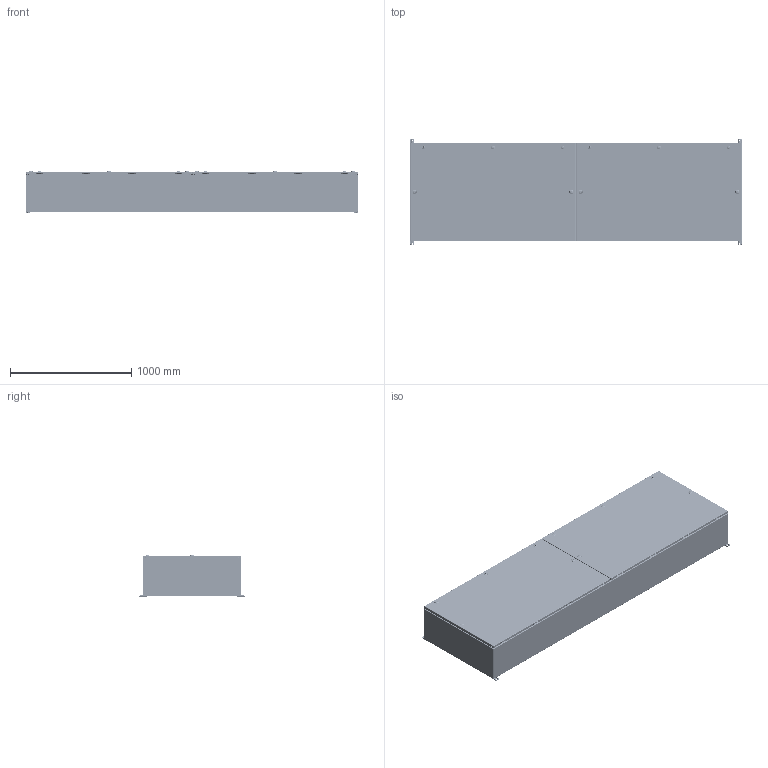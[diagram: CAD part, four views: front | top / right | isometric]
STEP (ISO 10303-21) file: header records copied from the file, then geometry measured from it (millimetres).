
FILE_DESCRIPTION(/* description */ ('1412BTSSCU 1600A - 4 Wires x 108" Assembly'),/* implementation_level */ '2;1');
FILE_NAME(/* name */ 'C:\Vault_Workspace\Inventor_Dwg\BoxCad\Result\1412BTSSCU091604DT\e-mail\3D\1412BTSSCU091604DT.stp',/* time_stamp */ '2022-10-28T12:57:22-04:00',/* author */ ('BoxCad'),/* organization */ (''),/* preprocessor_version */ 'ST-DEVELOPER v18.1',/* originating_system */ 'Autodesk Inventor 2020',/* authorisation */ '');
FILE_SCHEMA (('AUTOMOTIVE_DESIGN { 1 0 10303 214 3 1 1 }'));
Products named in the file (67): 1412BTSSCU091604DT; 1412BTSSCU091604DTB; 1412BTSSCU091604DTB-P; 1412BTSSCU091604DTE-P; STK-Q-16020; iLogic_STK-G-00701; STK-Q-00260; STK-Q-07220-1; STK-Q-07220-A; STK-Q-07220-B; 1412BTSSCU091604DTC; 1412BTSSCU091604DTC-P; 1412BTSSCU091604DTF-P; 1412BTSSCU091604DTG; STK-Q-16095; STK-K-09850-1; STK-Q-33019; STK-Q-90111; STK-Q-40096; STK-Q-63412; STK-S-00100; STK-A-880SCQ4-SLSS6-1; STK-A-880SCQ4-SLSS6-2; STK-A-880SCQ4-SLSS6-3; STK-A-880SCQ4-SLSS6-4; STK-A-880SCQ4-SLSS6-5; STK-A-880SCQ4-SLSS6-6; STK-A-880SCQ4-SLSS6-7; STK-A-880SCQ4-SLSS6-8; STK-A-880SCQ4-SLSS6-9; STK-A-880SCQ4-SLSS6-10; STK-Q-70621; STK-Q-70631; STK-Q-78145; STK-Q-03200; STK-Q-78125; STK-Q-90390; STK-Q-78160; STK-Q-78141; 1412BTSSCU091604DTIP1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
Assembly tree (242 placements, depth 4):
  1412BTSSCU091604DT
    1412BTSSCU091604DTB
      1412BTSSCU091604DTB-P
      1412BTSSCU091604DTE-P
      STK-Q-16095  x2
      STK-Q-16020  x10
      iLogic_STK-G-00701
      STK-Q-00260  x10
      STK-Q-07220-1  x10
        STK-Q-07220-A
        STK-Q-07220-B
      STK-S-00100
    1412BTSSCU091604DTC
      1412BTSSCU091604DTC-P
      1412BTSSCU091604DTF-P
      1412BTSSCU091604DTG  x2
      STK-Q-16095  x2
      STK-K-09850-1  x8
        STK-Q-33019
        STK-Q-90111
        STK-Q-40096
        STK-Q-63412
      STK-S-00100
      STK-A-880SCQ4-SLSS6-1
        STK-Q-70621
        STK-Q-70631
        STK-Q-78145
        STK-Q-03200
        STK-Q-78125
        STK-Q-90390
        STK-Q-78160
        STK-Q-78141
      STK-A-880SCQ4-SLSS6-2
        STK-Q-70621
        STK-Q-70631
        STK-Q-78145
        STK-Q-03200
        STK-Q-78125
        STK-Q-90390
        STK-Q-78160
        STK-Q-78141
      STK-A-880SCQ4-SLSS6-3
        STK-Q-70621
        STK-Q-70631
        STK-Q-78145
        STK-Q-03200
        STK-Q-78125
        STK-Q-90390
        STK-Q-78160
        STK-Q-78141
      STK-A-880SCQ4-SLSS6-4
        STK-Q-70621
        STK-Q-70631
        STK-Q-78145
        STK-Q-03200
        STK-Q-78125
        STK-Q-90390
        STK-Q-78160
        STK-Q-78141
      STK-A-880SCQ4-SLSS6-5
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Bounding box: 2743.2 x 869.95 x 345 mm (x, y, z)
Volume: 27099351.3 mm3; surface area: 19808196.1 mm2
Topology: 362 solids, 362 shells, 51120 faces, 133812 edges, 83520 vertices
Faces by surface type: plane 19488, bspline 14262, cylinder 12100, torus 3566, sphere 1082, cone 622
Full cylindrical faces by diameter (mm): 0.75 x14, 0.762 x14, 1 x32, 1.1 x32, 3.2 x16, 4.5 x64, 4.85 x64, 4.917 x8, 4.95 x16, 5 x10, 5.1 x140, 5.105 x56, 5.9 x278, 6.65 x16, 6.655 x10, 6.8 x10, 6.85 x96, 7.366 x16, 7.8 x656, 8 x64, 8.25 x32, 8.6 x12, 9.5 x10, 9.6 x10, 9.7 x48, 9.906 x4, 10 x18, 10.312 x2, 11.5 x32, 12 x24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
Entity records: 237319 total; most frequent: CARTESIAN_POINT 91843, ORIENTED_EDGE 32080, DIRECTION 25835, EDGE_CURVE 16040, VERTEX_POINT 10268, AXIS2_PLACEMENT_3D 8874, LINE 8087, VECTOR 8087
